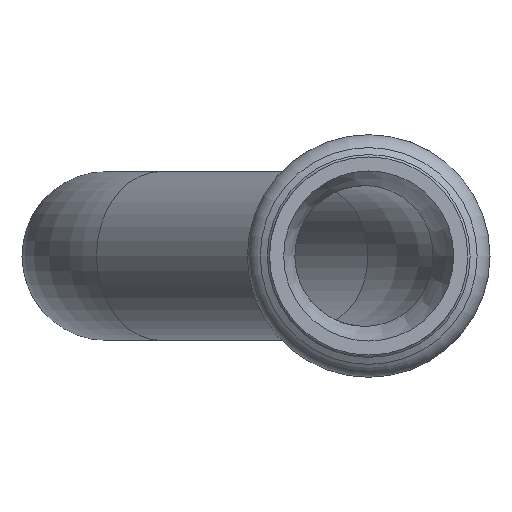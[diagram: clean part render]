
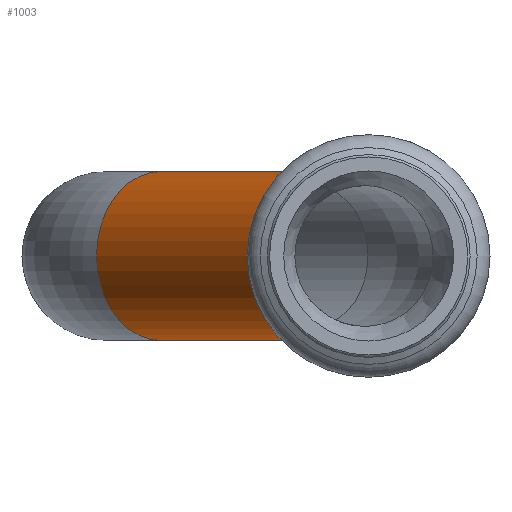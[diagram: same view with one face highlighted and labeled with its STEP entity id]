
A CAD part, left-side view. The second image highlights one B-rep face of the part: STEP entity #1003.
In plain terms, the highlighted cylindrical face has radius 9 mm (diameter 18 mm), a full revolution.
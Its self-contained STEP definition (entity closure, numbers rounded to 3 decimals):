
#972=CARTESIAN_POINT('',(-41.283,12.743,0.));
#973=VERTEX_POINT('',#972);
#974=CARTESIAN_POINT('',(-35.498,5.849,0.0));
#975=DIRECTION('',(0.766,0.643,0.0));
#976=DIRECTION('',(0.643,-0.766,0.0));
#977=AXIS2_PLACEMENT_3D('',#974,#975,#976);
#978=CIRCLE('',#977,9.0);
#979=EDGE_CURVE('',#973,#973,#978,.T.);
#984=CARTESIAN_POINT('',(-16.07,22.151,0.0));
#985=DIRECTION('',(-0.766,-0.643,0.0));
#986=DIRECTION('',(0.643,-0.766,0.0));
#987=AXIS2_PLACEMENT_3D('',#984,#985,#986);
#988=CYLINDRICAL_SURFACE('',#987,9.0);
#989=ORIENTED_EDGE('',*,*,#979,.T.);
#990=EDGE_LOOP('',(#989));
#991=FACE_OUTER_BOUND('',#990,.T.);
#992=CARTESIAN_POINT('',(-21.855,29.046,0.));
#993=VERTEX_POINT('',#992);
#994=CARTESIAN_POINT('',(-16.07,22.151,0.0));
#995=DIRECTION('',(0.766,0.643,0.0));
#996=DIRECTION('',(0.643,-0.766,0.0));
#997=AXIS2_PLACEMENT_3D('',#994,#995,#996);
#998=CIRCLE('',#997,9.0);
#999=EDGE_CURVE('',#993,#993,#998,.T.);
#1000=ORIENTED_EDGE('',*,*,#999,.F.);
#1001=EDGE_LOOP('',(#1000));
#1002=FACE_BOUND('',#1001,.T.);
#1003=ADVANCED_FACE('',(#991,#1002),#988,.T.);
